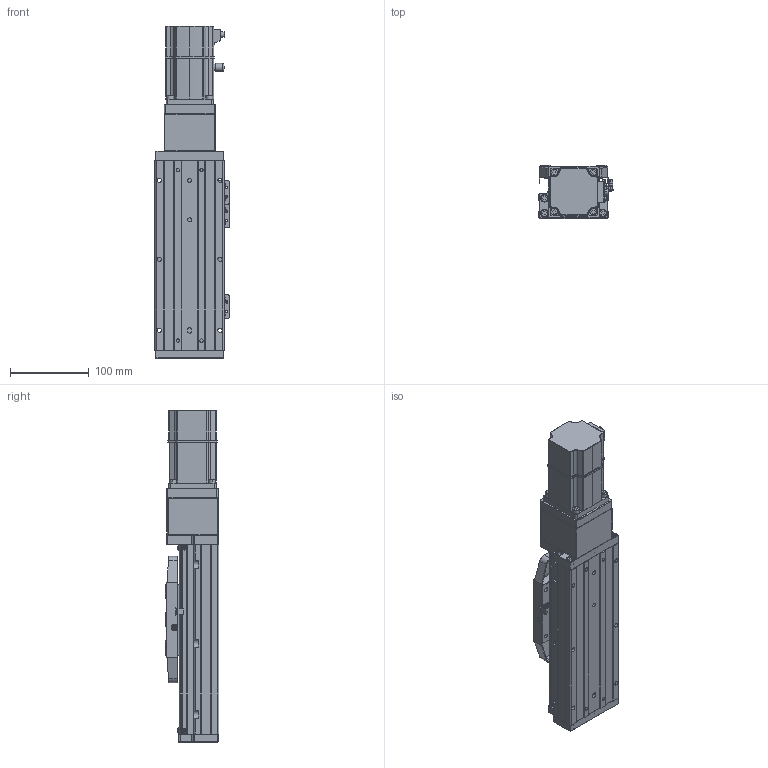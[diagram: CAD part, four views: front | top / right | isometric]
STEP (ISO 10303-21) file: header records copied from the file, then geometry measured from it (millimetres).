
FILE_DESCRIPTION (( 'STEP AP203' ), '1' );
FILE_NAME ('CTHA86-50-BC-M20-C4L.step', '2022-04-26T00:47:10', ( '微软用户' ), ( '微软中国' ), 'SwSTEP 2.0', 'SolidWorks 2020', '' );
FILE_SCHEMA (( 'CONFIG_CONTROL_DESIGN' ));
Length unit declared in the file: millimetre
Products named in the file (22): CTHA86-031; CTHA60-021; CTHA86-013; CTHA86-030; KTHA86-001_240; GBT77-2000 M3×3; CTHA86-027; CTHA86-50-BC-M20-C4L; KTHA86-004; GBT 70.1-M3×20; CTHA86-006-1_CTHA86-006-2; KTHA86-005; GBT70.1 M5℅16; _X2_4E0983F1_X0_200W_1; GB¨uT 70.2-M3¡Á5_M3¡Á6; GBT 70.1-M3×16; GBT 70.3-M3℅6; EE_SX911P_R; GBT 70.1-M3℅6; CTHA86-002; CTHA60-017; CTHA60-016
Assembly tree (65 placements, depth 2):
  CTHA86-50-BC-M20-C4L
    KTHA86-001_240
    KTHA86-004
    KTHA86-005
    GB¨uT 70.2-M3¡Á5_M3¡Á6  x10
    EE_SX911P_R  x3
    CTHA60-017  x3
    CTHA60-021  x2
    GBT77-2000 M3×3  x6
    GBT 70.1-M3×20
    GBT70.1 M5℅16  x14
    GBT 70.1-M3×16
    GBT 70.1-M3℅6  x6
    CTHA60-016  x2
    CTHA86-013
    CTHA86-027
    CTHA86-006-1_CTHA86-006-2
    _X2_4E0983F1_X0_200W_1
    GBT 70.3-M3℅6  x6
    CTHA86-002
    CTHA86-031
    CTHA86-030  x2
Bounding box: 93.82 x 68 x 420.5 mm (x, y, z)
Volume: 1577797.5 mm3; surface area: 312157.1 mm2
Topology: 67 solids, 67 shells, 2614 faces, 6191 edges, 3796 vertices
Faces by surface type: plane 1356, cylinder 667, cone 378, torus 120, bspline 69, sphere 24
Entity records: 44399 total; most frequent: CARTESIAN_POINT 8288, DIRECTION 6938, ORIENTED_EDGE 6638, EDGE_CURVE 3319, AXIS2_PLACEMENT_3D 2382, LINE 2174, VECTOR 2174, VERTEX_POINT 2074
